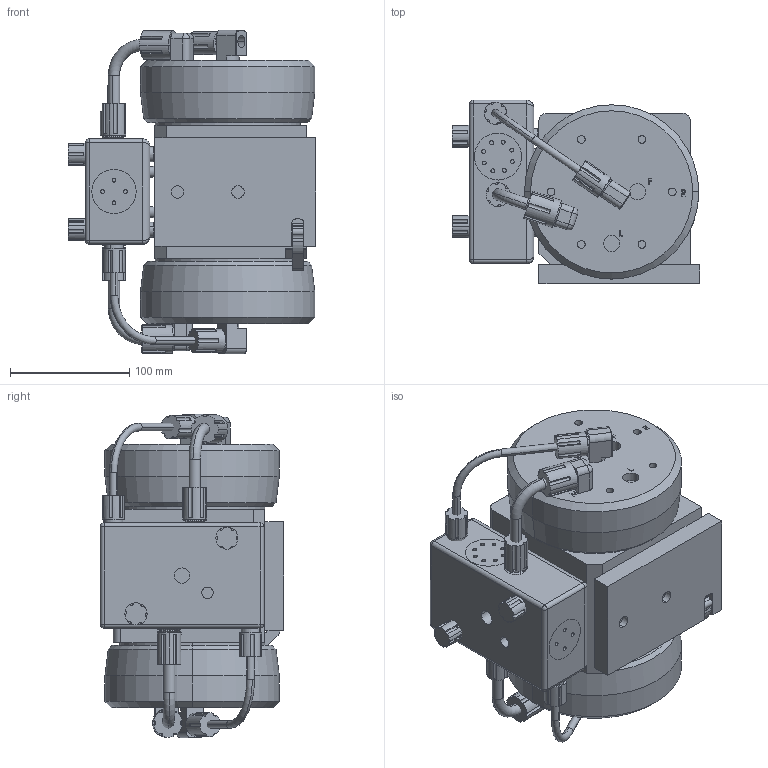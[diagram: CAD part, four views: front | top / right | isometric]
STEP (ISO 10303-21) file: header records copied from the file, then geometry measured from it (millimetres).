
FILE_DESCRIPTION (( 'STEP AP214' ), '1' );
FILE_NAME ('psh060-t-fitting.STEP', '2012-11-26T21:13:21', ( '' ), ( '' ), 'SwSTEP 2.0', 'SolidWorks 2012', '' );
FILE_SCHEMA (( 'AUTOMOTIVE_DESIGN' ));
Length unit declared in the file: inch
Products named in the file (1): psh060-t-fitting
Bounding box: 207.67 x 153.79 x 271.22 mm (x, y, z)
Volume: 5236460 mm3; surface area: 409152.3 mm2
Topology: 35 solids, 35 shells, 1759 faces, 4317 edges, 2785 vertices
Faces by surface type: plane 916, cylinder 457, cone 206, bspline 164, sphere 8, torus 8
Entity records: 61893 total; most frequent: CARTESIAN_POINT 19482, ORIENTED_EDGE 8602, DIRECTION 8398, EDGE_CURVE 4301, AXIS2_PLACEMENT_3D 2849, VERTEX_POINT 2785, LINE 2700, VECTOR 2700
